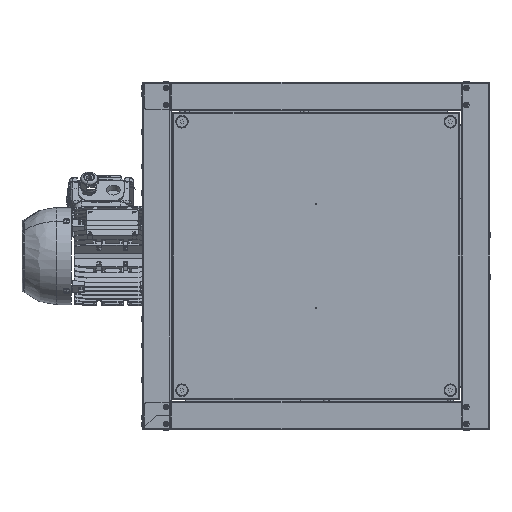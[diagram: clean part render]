
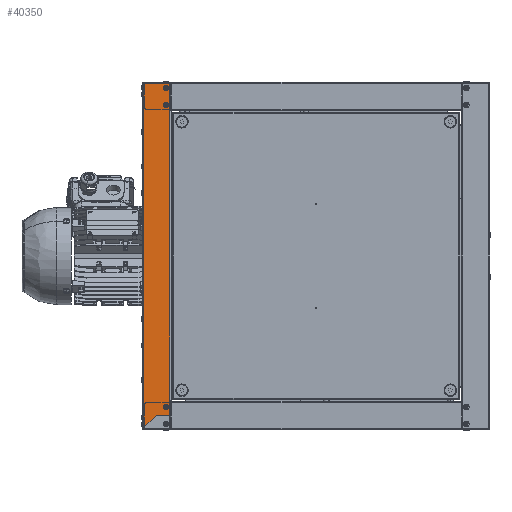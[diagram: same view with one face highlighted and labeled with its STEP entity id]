
A CAD part, left-side view. The second image highlights one B-rep face of the part: STEP entity #40350.
In plain terms, the highlighted planar face has unit normal (-1, 0, 0).
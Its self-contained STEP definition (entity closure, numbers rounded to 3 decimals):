
#1229 = FACE_BOUND ( 'NONE', #24910, .T. ) ;
#1318 = AXIS2_PLACEMENT_3D ( 'NONE', #21943, #78661, #30152 ) ;
#2166 = AXIS2_PLACEMENT_3D ( 'NONE', #26622, #83233, #34783 ) ;
#3468 = ORIENTED_EDGE ( 'NONE', *, *, #40969, .T. ) ;
#3909 = VECTOR ( 'NONE', #62715, 1000. ) ;
#4378 = EDGE_CURVE ( 'NONE', #99693, #49616, #37942, .T. ) ;
#6147 = LINE ( 'NONE', #68706, #92283 ) ;
#6831 = LINE ( 'NONE', #52340, #90406 ) ;
#7248 = VERTEX_POINT ( 'NONE', #61606 ) ;
#7673 = DIRECTION ( 'NONE',  ( 0., 0., -1. ) ) ;
#7950 = ORIENTED_EDGE ( 'NONE', *, *, #19984, .F. ) ;
#8236 = CARTESIAN_POINT ( 'NONE',  ( -250., 210.2, -229.1 ) ) ;
#9805 = LINE ( 'NONE', #8236, #50322 ) ;
#9912 = CIRCLE ( 'NONE', #1318, 2.1 ) ;
#10202 = DIRECTION ( 'NONE',  ( -1., 0., 0. ) ) ;
#10302 = DIRECTION ( 'NONE',  ( 0., 1., 0. ) ) ;
#11320 = VECTOR ( 'NONE', #33622, 1000. ) ;
#12445 = VECTOR ( 'NONE', #78805, 1000. ) ;
#13436 = CARTESIAN_POINT ( 'NONE',  ( -250., 210.2, -210.05 ) ) ;
#15743 = VECTOR ( 'NONE', #7673, 1000. ) ;
#15991 = EDGE_CURVE ( 'NONE', #59270, #30699, #46886, .T. ) ;
#16401 = DIRECTION ( 'NONE',  ( 0., -1., 0. ) ) ;
#16443 = CARTESIAN_POINT ( 'NONE',  ( -250., 218.1, 217.2 ) ) ;
#19984 = EDGE_CURVE ( 'NONE', #71075, #94852, #28439, .T. ) ;
#21943 = CARTESIAN_POINT ( 'NONE',  ( -250., 216., 241.7 ) ) ;
#22087 = DIRECTION ( 'NONE',  ( 0., 0.707, -0.707 ) ) ;
#22350 = CARTESIAN_POINT ( 'NONE',  ( -250., 210.2, 211.65 ) ) ;
#22599 = DIRECTION ( 'NONE',  ( -1., 0., 0. ) ) ;
#23928 = CARTESIAN_POINT ( 'NONE',  ( -250., 216., -217.2 ) ) ;
#24910 = EDGE_LOOP ( 'NONE', ( #7950, #42425 ) ) ;
#25937 = EDGE_CURVE ( 'NONE', #30699, #49333, #6831, .T. ) ;
#26163 = CARTESIAN_POINT ( 'NONE',  ( -250., 213.9, -217.2 ) ) ;
#26622 = CARTESIAN_POINT ( 'NONE',  ( -250., 216., 241.7 ) ) ;
#27107 = EDGE_CURVE ( 'NONE', #7248, #76033, #39525, .T. ) ;
#27935 = DIRECTION ( 'NONE',  ( 0., 1., 0. ) ) ;
#28439 = CIRCLE ( 'NONE', #2166, 2.1 ) ;
#30152 = DIRECTION ( 'NONE',  ( 0., -1., 0. ) ) ;
#30320 = CARTESIAN_POINT ( 'NONE',  ( -250., 210.7, 211.65 ) ) ;
#30345 = ORIENTED_EDGE ( 'NONE', *, *, #27107, .F. ) ;
#30699 = VERTEX_POINT ( 'NONE', #60743 ) ;
#31371 = CARTESIAN_POINT ( 'NONE',  ( -250., 218.1, 241.7 ) ) ;
#31872 = VECTOR ( 'NONE', #22087, 1000. ) ;
#32085 = DIRECTION ( 'NONE',  ( 0., -1., 0. ) ) ;
#32615 = ORIENTED_EDGE ( 'NONE', *, *, #71300, .F. ) ;
#32830 = CARTESIAN_POINT ( 'NONE',  ( -250., 229.75, -229.1 ) ) ;
#33622 = DIRECTION ( 'NONE',  ( 0., 0., 1. ) ) ;
#34783 = DIRECTION ( 'NONE',  ( 0., -1., 0. ) ) ;
#34833 = VERTEX_POINT ( 'NONE', #32830 ) ;
#35087 = EDGE_LOOP ( 'NONE', ( #32615, #36761 ) ) ;
#35150 = CARTESIAN_POINT ( 'NONE',  ( -250., 248., 248. ) ) ;
#36036 = CARTESIAN_POINT ( 'NONE',  ( -250., 210.7, -210.05 ) ) ;
#36339 = ORIENTED_EDGE ( 'NONE', *, *, #46333, .T. ) ;
#36761 = ORIENTED_EDGE ( 'NONE', *, *, #42445, .F. ) ;
#37617 = EDGE_LOOP ( 'NONE', ( #53252, #41544, #99251, #36339, #99503, #53971, #71756, #3468, #78868 ) ) ;
#37942 = LINE ( 'NONE', #64631, #11320 ) ;
#39525 = CIRCLE ( 'NONE', #76576, 2.1 ) ;
#39831 = CARTESIAN_POINT ( 'NONE',  ( -250., 210.7, 248.95 ) ) ;
#40350 = ADVANCED_FACE ( 'NONE', ( #87302, #44219, #1229, #84767 ), #66570, .F. ) ;
#40969 = EDGE_CURVE ( 'NONE', #87968, #59270, #98594, .T. ) ;
#41017 = EDGE_LOOP ( 'NONE', ( #30345, #76197 ) ) ;
#41544 = ORIENTED_EDGE ( 'NONE', *, *, #76330, .T. ) ;
#42425 = ORIENTED_EDGE ( 'NONE', *, *, #45762, .F. ) ;
#42445 = EDGE_CURVE ( 'NONE', #98326, #61983, #53985, .T. ) ;
#43652 = AXIS2_PLACEMENT_3D ( 'NONE', #23928, #80545, #32085 ) ;
#43687 = EDGE_CURVE ( 'NONE', #34833, #97443, #96447, .T. ) ;
#44219 = FACE_BOUND ( 'NONE', #41017, .T. ) ;
#44554 = DIRECTION ( 'NONE',  ( -1., 0., 0. ) ) ;
#44987 = DIRECTION ( 'NONE',  ( 0., 0., -1. ) ) ;
#45762 = EDGE_CURVE ( 'NONE', #94852, #71075, #9912, .T. ) ;
#46333 = EDGE_CURVE ( 'NONE', #34833, #99693, #9805, .T. ) ;
#46886 = LINE ( 'NONE', #22350, #3909 ) ;
#47713 = CARTESIAN_POINT ( 'NONE',  ( -250., 213.9, 241.7 ) ) ;
#48642 = AXIS2_PLACEMENT_3D ( 'NONE', #58681, #10202, #66812 ) ;
#49333 = VERTEX_POINT ( 'NONE', #35150 ) ;
#49616 = VERTEX_POINT ( 'NONE', #13436 ) ;
#50322 = VECTOR ( 'NONE', #16401, 1000. ) ;
#50660 = CARTESIAN_POINT ( 'NONE',  ( -250., 250., 248.95 ) ) ;
#52340 = CARTESIAN_POINT ( 'NONE',  ( -250., 210.2, 248. ) ) ;
#53252 = ORIENTED_EDGE ( 'NONE', *, *, #25937, .T. ) ;
#53971 = ORIENTED_EDGE ( 'NONE', *, *, #65659, .T. ) ;
#53985 = CIRCLE ( 'NONE', #43652, 2.1 ) ;
#58681 = CARTESIAN_POINT ( 'NONE',  ( -250., 216., -217.2 ) ) ;
#58784 = DIRECTION ( 'NONE',  ( 1., 0., 0. ) ) ;
#59003 = CIRCLE ( 'NONE', #77119, 2.1 ) ;
#59270 = VERTEX_POINT ( 'NONE', #89865 ) ;
#60743 = CARTESIAN_POINT ( 'NONE',  ( -250., 210.2, 248. ) ) ;
#61606 = CARTESIAN_POINT ( 'NONE',  ( -250., 213.9, 217.2 ) ) ;
#61983 = VERTEX_POINT ( 'NONE', #26163 ) ;
#62712 = CARTESIAN_POINT ( 'NONE',  ( -250., 248., -247.35 ) ) ;
#62715 = DIRECTION ( 'NONE',  ( 0., 0., 1. ) ) ;
#64631 = CARTESIAN_POINT ( 'NONE',  ( -250., 210.2, -210.05 ) ) ;
#64932 = CARTESIAN_POINT ( 'NONE',  ( -250., 218.1, -217.2 ) ) ;
#65155 = CARTESIAN_POINT ( 'NONE',  ( -250., 210.7, -210.05 ) ) ;
#65659 = EDGE_CURVE ( 'NONE', #49616, #85512, #73925, .T. ) ;
#66570 = PLANE ( 'NONE',  #92406 ) ;
#66812 = DIRECTION ( 'NONE',  ( 0., -1., 0. ) ) ;
#68706 = CARTESIAN_POINT ( 'NONE',  ( -250., 248., 248.95 ) ) ;
#71061 = CARTESIAN_POINT ( 'NONE',  ( -250., 216., 217.2 ) ) ;
#71075 = VERTEX_POINT ( 'NONE', #47713 ) ;
#71300 = EDGE_CURVE ( 'NONE', #61983, #98326, #95532, .T. ) ;
#71756 = ORIENTED_EDGE ( 'NONE', *, *, #86844, .F. ) ;
#73925 = LINE ( 'NONE', #36036, #95470 ) ;
#76033 = VERTEX_POINT ( 'NONE', #16443 ) ;
#76197 = ORIENTED_EDGE ( 'NONE', *, *, #99508, .F. ) ;
#76330 = EDGE_CURVE ( 'NONE', #49333, #97443, #6147, .T. ) ;
#76576 = AXIS2_PLACEMENT_3D ( 'NONE', #93089, #44554, #101267 ) ;
#77119 = AXIS2_PLACEMENT_3D ( 'NONE', #71061, #22599, #79260 ) ;
#78661 = DIRECTION ( 'NONE',  ( -1., 0., 0. ) ) ;
#78805 = DIRECTION ( 'NONE',  ( 0., -1., 0. ) ) ;
#78868 = ORIENTED_EDGE ( 'NONE', *, *, #15991, .T. ) ;
#79260 = DIRECTION ( 'NONE',  ( 0., -1., 0. ) ) ;
#80545 = DIRECTION ( 'NONE',  ( -1., 0., 0. ) ) ;
#83233 = DIRECTION ( 'NONE',  ( -1., 0., 0. ) ) ;
#84767 = FACE_OUTER_BOUND ( 'NONE', #37617, .T. ) ;
#85512 = VERTEX_POINT ( 'NONE', #65155 ) ;
#86844 = EDGE_CURVE ( 'NONE', #87968, #85512, #99355, .T. ) ;
#86886 = CARTESIAN_POINT ( 'NONE',  ( -250., 249.1, -248.45 ) ) ;
#87302 = FACE_BOUND ( 'NONE', #35087, .T. ) ;
#87968 = VERTEX_POINT ( 'NONE', #97151 ) ;
#89111 = CARTESIAN_POINT ( 'NONE',  ( -250., 210.2, -229.1 ) ) ;
#89865 = CARTESIAN_POINT ( 'NONE',  ( -250., 210.2, 211.65 ) ) ;
#90406 = VECTOR ( 'NONE', #27935, 1000. ) ;
#92283 = VECTOR ( 'NONE', #44987, 1000. ) ;
#92406 = AXIS2_PLACEMENT_3D ( 'NONE', #50660, #58784, #10302 ) ;
#92635 = DIRECTION ( 'NONE',  ( 0., 1., 0. ) ) ;
#93089 = CARTESIAN_POINT ( 'NONE',  ( -250., 216., 217.2 ) ) ;
#94852 = VERTEX_POINT ( 'NONE', #31371 ) ;
#95470 = VECTOR ( 'NONE', #92635, 1000. ) ;
#95532 = CIRCLE ( 'NONE', #48642, 2.1 ) ;
#96447 = LINE ( 'NONE', #86886, #31872 ) ;
#97151 = CARTESIAN_POINT ( 'NONE',  ( -250., 210.7, 211.65 ) ) ;
#97443 = VERTEX_POINT ( 'NONE', #62712 ) ;
#98326 = VERTEX_POINT ( 'NONE', #64932 ) ;
#98594 = LINE ( 'NONE', #30320, #12445 ) ;
#99251 = ORIENTED_EDGE ( 'NONE', *, *, #43687, .F. ) ;
#99355 = LINE ( 'NONE', #39831, #15743 ) ;
#99503 = ORIENTED_EDGE ( 'NONE', *, *, #4378, .T. ) ;
#99508 = EDGE_CURVE ( 'NONE', #76033, #7248, #59003, .T. ) ;
#99693 = VERTEX_POINT ( 'NONE', #89111 ) ;
#101267 = DIRECTION ( 'NONE',  ( 0., -1., 0. ) ) ;
